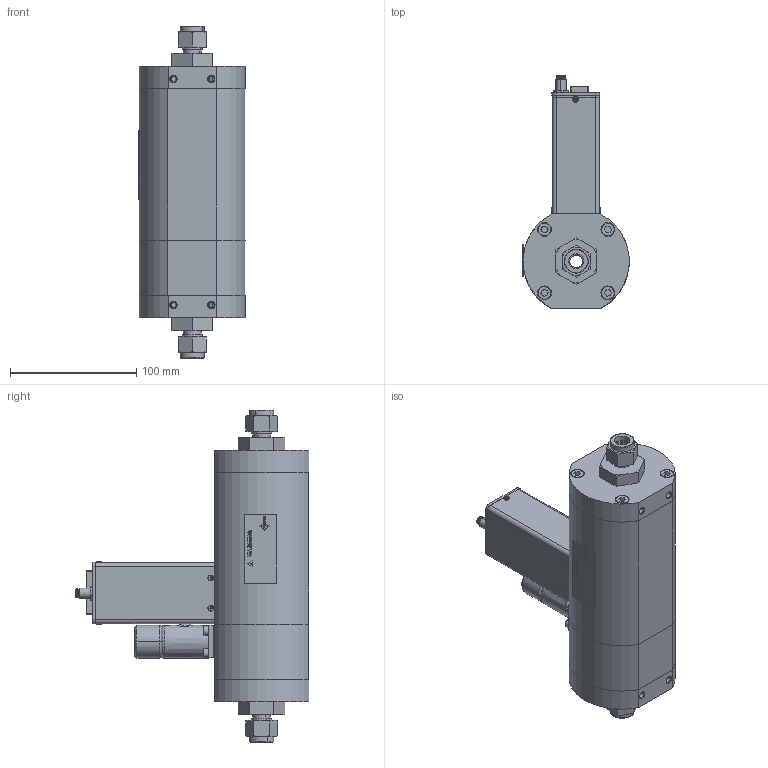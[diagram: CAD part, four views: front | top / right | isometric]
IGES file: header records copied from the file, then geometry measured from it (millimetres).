
Start section: SolidWorks IGES file using analytic representation for surfaces
Global section: file name: G:\Engineering\CAD MODELS FOR SALES\CAD MODEL STORAGE\SLA\SLA5853\IGES\SLA5853-8-2X-2-A-REVB.IGS; native system: SolidWorks 2019; preprocessor: SolidWorks 2019; author: CFehr; date: 200904.144938; units: inch
Bounding box: 84.02 x 184.93 x 262.8 mm (x, y, z)
Volume: 534449.2 mm3; surface area: 225721.7 mm2
Topology: 80 solids, 80 shells, 2626 faces, 6821 edges, 4334 vertices
Faces by surface type: plane 1544, revolution 929, bspline 153
